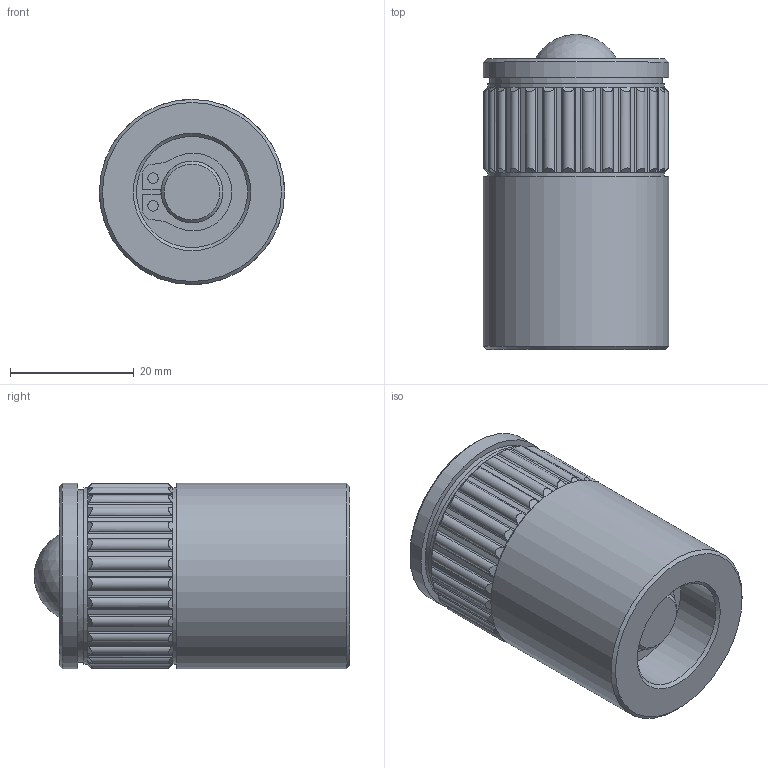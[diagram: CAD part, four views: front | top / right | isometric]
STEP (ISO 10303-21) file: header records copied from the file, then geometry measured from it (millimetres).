
FILE_DESCRIPTION(/* description */ (''),/* implementation_level */ '2;1');
FILE_NAME(/* name */ '\\EASAD\users\diepstratenf\Desktop\SMB28.stp',/* time_stamp */ '2016-04-18T08:12:22+02:00',/* author */ ('diepstratenf'),/* organization */ (''),/* preprocessor_version */ 'ST-DEVELOPER v15.2',/* originating_system */ 'Autodesk Inventor 2014',/* authorisation */ '');
FILE_SCHEMA (('AUTOMOTIVE_DESIGN { 1 0 10303 214 3 1 1 }'));
Length unit declared in the file: millimetre
Products named in the file (1): Part4
Bounding box: 29.95 x 51 x 29.95 mm (x, y, z)
Volume: 18908.8 mm3; surface area: 19111.2 mm2
Topology: 20 solids, 21 shells, 294 faces, 758 edges, 473 vertices
Faces by surface type: cylinder 131, sphere 85, cone 57, plane 19, torus 2
Full cylindrical faces by diameter (mm): 1.7 x2, 9.4 x1, 10 x2, 10.2 x1, 18 x1, 24.2 x1, 28 x1, 29.95 x2
Entity records: 9790 total; most frequent: CARTESIAN_POINT 3054, DIRECTION 1286, ORIENTED_EDGE 1156, AXIS2_PLACEMENT_3D 569, EDGE_CURVE 565, EDGE_LOOP 504, VERTEX_POINT 433, STYLED_ITEM 320
